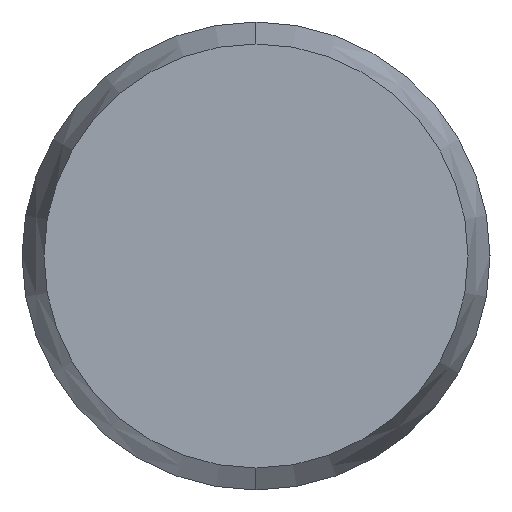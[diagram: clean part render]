
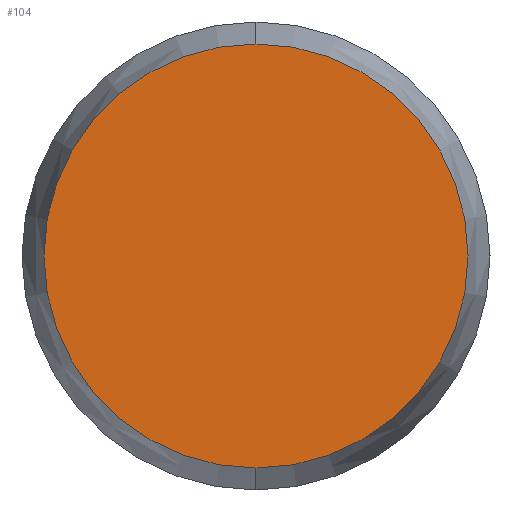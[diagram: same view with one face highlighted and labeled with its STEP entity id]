
A CAD part, left-side view. The second image highlights one B-rep face of the part: STEP entity #104.
In plain terms, the highlighted planar face has unit normal (-1, 0, 0).
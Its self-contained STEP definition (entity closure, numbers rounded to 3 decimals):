
#83 = DIRECTION ( 'NONE',  ( 0., 0., -1. ) ) ;
#84 = DIRECTION ( 'NONE',  ( 1., 0., 0. ) ) ;
#85 = CARTESIAN_POINT ( 'NONE',  ( -25., 0., 0. ) ) ;
#86 = AXIS2_PLACEMENT_3D ( 'NONE', #85, #84, #83 ) ;
#87 = PLANE ( 'NONE',  #86 ) ;
#88 = DIRECTION ( 'NONE',  ( 0., 0., -1. ) ) ;
#89 = DIRECTION ( 'NONE',  ( 1., 0., 0. ) ) ;
#90 = CARTESIAN_POINT ( 'NONE',  ( -25., 0., 0. ) ) ;
#91 = AXIS2_PLACEMENT_3D ( 'NONE', #90, #89, #88 ) ;
#92 = CIRCLE ( 'NONE', #91, 1.812 ) ;
#93 = FACE_OUTER_BOUND ( 'NONE', #99, .T. ) ;
#97 = EDGE_CURVE ( 'NONE', #237, #236, #92, .T. ) ;
#99 = EDGE_LOOP ( 'NONE', ( #100, #102 ) ) ;
#100 = ORIENTED_EDGE ( 'NONE', *, *, #235, .F. ) ;
#102 = ORIENTED_EDGE ( 'NONE', *, *, #97, .F. ) ;
#104 = ADVANCED_FACE ( 'NONE', ( #93 ), #87, .F. ) ;
#201 = CARTESIAN_POINT ( 'NONE',  ( -25., 0., -1.812 ) ) ;
#202 = CARTESIAN_POINT ( 'NONE',  ( -25., 0., 1.812 ) ) ;
#203 = DIRECTION ( 'NONE',  ( 0., 0., -1. ) ) ;
#204 = DIRECTION ( 'NONE',  ( 1., 0., 0. ) ) ;
#205 = CARTESIAN_POINT ( 'NONE',  ( -25., 0., 0. ) ) ;
#206 = AXIS2_PLACEMENT_3D ( 'NONE', #205, #204, #203 ) ;
#207 = CIRCLE ( 'NONE', #206, 1.812 ) ;
#235 = EDGE_CURVE ( 'NONE', #236, #237, #207, .T. ) ;
#236 = VERTEX_POINT ( 'NONE', #202 ) ;
#237 = VERTEX_POINT ( 'NONE', #201 ) ;
